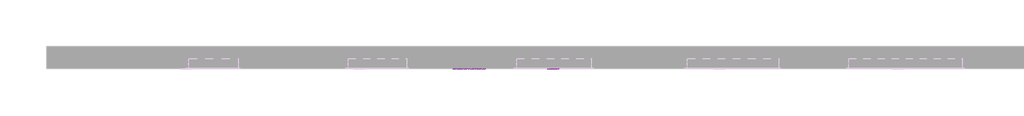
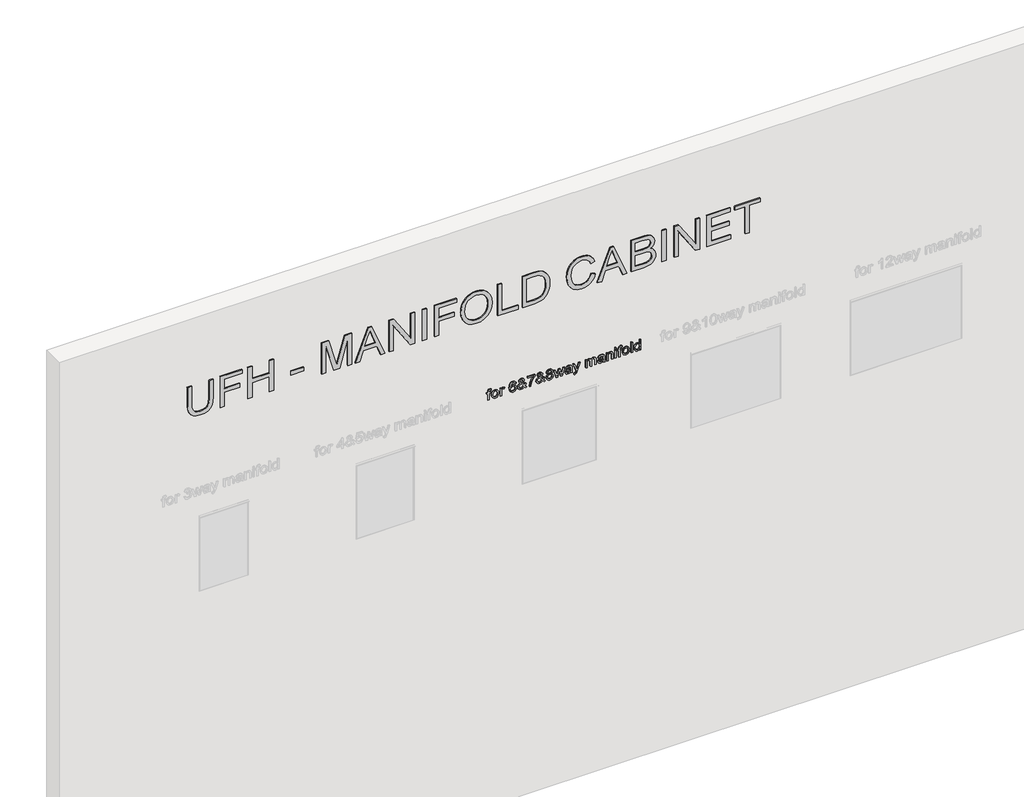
# One storey, part 8 of 26: 2 proxies.
"""IFC4 building model written with IfcOpenShell, lengths in millimetres."""

from ifc_helpers import new_model, si_unit, frame, origin, place, context, project, spatial, polyline, outline, extrude, element, save

model = new_model("IFC4")

# Units and contexts
model_context = context("Model", 3, world=origin())
ifc_project = project(units=[si_unit("LENGTHUNIT", "METRE", prefix="MILLI")], contexts=[model_context])

# Site, building, storey
site = spatial("IfcSite", under=ifc_project)
building = spatial("IfcBuilding", under=site)
storey = spatial("IfcBuildingStorey", under=building, Name="Superpipe UFH", Elevation=0.0)

# Proxies
placement = place(None, origin())
element("IfcBuildingElementProxy", 1, Name="300mm Arial", ObjectType="300mm Arial", at=placement, inside=storey, context=model_context, shape_type="SweptSolid", body=[
    extrude(outline(polyline([(5053.3493459, 1098.9177551), (4880.8126902, 1098.9177551), (4833.6502184, 1094.1536832), (4816.9115876, 1088.1985934), (4804.7346936, 1079.8614677), (4796.0756711, 1068.7284389), (4789.8906551, 1054.3856396), (4784.9426422, 1016.0707298), (4787.4442398, 991.9008827), (4794.9490325, 971.7777375), (4807.0615472, 956.3450878), (4823.3863107, 946.2467271), (4846.9583496, 940.6733149), (4880.8126902, 938.8155108), (5053.3493459, 938.8155108), (5053.3493459, 901.1443945), (4879.488315, 901.1443945), (4836.712836, 904.004677), (4804.0357178, 912.5855245), (4779.6727327, 927.8526273), (4761.8396529, 950.7716756), (4750.9135577, 981.3518665), (4747.2715259, 1019.6023969), (4751.4561836, 1058.708253), (4764.0101567, 1089.499976), (4783.231991, 1112.0327482), (4807.4202321, 1126.3617519), (4838.7729752, 1134.0320915), (4879.488315, 1136.5888714), (5053.3493459, 1136.5888714), (5053.3493459, 1098.9177551)])), frame((0.0, -15228.3023992, 0.0), z_axis=(0.0, 1.0, 0.0), x_axis=(0.0, 0.0, 1.0)), (0.0, 0.0, 1.0), 10.0),
    extrude(outline(polyline([(4751.9804155, 1202.5133249), (4751.9804155, 1240.1844412), (4888.5382121, 1240.1844412), (4888.5382121, 1381.4511274), (4926.2093284, 1381.4511274), (4926.2093284, 1240.1844412), (5015.6782296, 1240.1844412), (5015.6782296, 1404.9955751), (5053.3493459, 1404.9955751), (5053.3493459, 1202.5133249), (4751.9804155, 1202.5133249)])), frame((0.0, -15228.3023992, 0.0), z_axis=(0.0, 1.0, 0.0), x_axis=(0.0, 0.0, 1.0)), (0.0, 0.0, 1.0), 10.0),
    extrude(outline(polyline([(4751.9804155, 1456.79336), (4751.9804155, 1494.4644763), (4893.2471016, 1494.4644763), (4893.2471016, 1654.5667206), (4751.9804155, 1654.5667206), (4751.9804155, 1692.2378369), (5053.3493459, 1692.2378369), (5053.3493459, 1654.5667206), (4930.9182179, 1654.5667206), (4930.9182179, 1494.4644763), (5053.3493459, 1494.4644763), (5053.3493459, 1456.79336), (4751.9804155, 1456.79336)])), frame((0.0, -15228.3023992, 0.0), z_axis=(0.0, 1.0, 0.0), x_axis=(0.0, 0.0, 1.0)), (0.0, 0.0, 1.0), 10.0),
    extrude(outline(polyline([(1970.0623197, -15228.3023992), (1852.3400812, -15228.3023992), (1852.3400812, -15218.3023992), (1970.0623197, -15218.3023992), (1970.0623197, -15228.3023992)])), frame((0.0, 0.0, 4841.4493167), z_axis=(0.0, 0.0, 1.0), x_axis=(1.0, 0.0, 0.0)), (0.0, 0.0, 1.0), 37.6711163),
    extrude(outline(polyline([(4751.9804155, 2134.8734535), (4751.9804155, 2172.5445698), (5015.6782296, 2172.5445698), (4751.9804155, 2248.2546844), (4751.9804155, 2299.3167053), (5015.6782296, 2375.0268199), (4751.9804155, 2375.0268199), (4751.9804155, 2412.6979363), (5053.3493459, 2412.6979363), (5053.3493459, 2347.8771287), (4844.6131019, 2287.2501759), (4796.5677133, 2273.7856949), (4840.9342819, 2261.3512834), (5053.3493459, 2199.694261), (5053.3493459, 2134.8734535), (4751.9804155, 2134.8734535)])), frame((0.0, -15228.3023992, 0.0), z_axis=(0.0, 1.0, 0.0), x_axis=(0.0, 0.0, 1.0)), (0.0, 0.0, 1.0), 10.0),
    extrude(outline(polyline([(4751.9804155, 2443.5264475), (4751.9804155, 2483.3312793), (4846.1582062, 2517.7650341), (4846.1582062, 2641.8884193), (4751.9804155, 2676.3957504), (4751.9804155, 2716.2005823), (5053.3493459, 2595.9031699), (5053.3493459, 2563.8238599), (4751.9804155, 2443.5264475)]), holes=[polyline([(4883.8293225, 2531.5973971), (4964.3954795, 2561.1015331), (5015.6782296, 2579.8635149), (4957.9207564, 2600.9799414), (4883.8293225, 2628.1296326), (4883.8293225, 2531.5973971)])]), frame((0.0, -15228.3023992, 0.0), z_axis=(0.0, 1.0, 0.0), x_axis=(0.0, 0.0, 1.0)), (0.0, 0.0, 1.0), 10.0),
    extrude(outline(polyline([(4751.9804155, 2756.4468725), (4751.9804155, 2794.1179889), (4990.8094067, 2794.1179889), (4751.9804155, 2951.5714828), (4751.9804155, 2991.8913495), (5053.3493459, 2991.8913495), (5053.3493459, 2954.2202332), (4814.5939311, 2954.2202332), (5053.3493459, 2796.7667392), (5053.3493459, 2756.4468725), (4751.9804155, 2756.4468725)])), frame((0.0, -15228.3023992, 0.0), z_axis=(0.0, 1.0, 0.0), x_axis=(0.0, 0.0, 1.0)), (0.0, 0.0, 1.0), 10.0),
    extrude(outline(polyline([(3100.1958088, -15228.3023992), (3062.5246925, -15228.3023992), (3062.5246925, -15218.3023992), (3100.1958088, -15218.3023992), (3100.1958088, -15228.3023992)])), frame((0.0, 0.0, 4751.9804155), z_axis=(0.0, 0.0, 1.0), x_axis=(1.0, 0.0, 0.0)), (0.0, 0.0, 1.0), 301.3689304),
    extrude(outline(polyline([(4751.9804155, 3175.5380415), (4751.9804155, 3213.2091578), (4888.5382121, 3213.2091578), (4888.5382121, 3354.4758439), (4926.2093284, 3354.4758439), (4926.2093284, 3213.2091578), (5015.6782296, 3213.2091578), (5015.6782296, 3378.0202916), (5053.3493459, 3378.0202916), (5053.3493459, 3175.5380415), (4751.9804155, 3175.5380415)])), frame((0.0, -15228.3023992, 0.0), z_axis=(0.0, 1.0, 0.0), x_axis=(0.0, 0.0, 1.0)), (0.0, 0.0, 1.0), 10.0),
    extrude(outline(polyline([(4898.6917551, 3415.6914079), (4860.1469191, 3419.9956272), (4823.6806163, 3432.9082853), (4791.9875824, 3454.1718646), (4767.7625531, 3483.5288478), (4752.3942827, 3519.1766131), (4747.2715259, 3559.3125388), (4751.9068391, 3597.1216109), (4765.8127785, 3632.2635385), (4788.7318268, 3662.227527), (4820.4064666, 3684.5027818), (4858.8685292, 3698.3259478), (4902.1498459, 3702.9336697), (4944.8609455, 3698.555874), (4982.7895792, 3685.4224868), (5014.4090367, 3663.9381783), (5038.1926077, 3634.5076186), (5053.0918285, 3599.0621884), (5058.0582355, 3559.533268), (5055.4140836, 3529.2427842), (5047.4816281, 3501.8677653), (5034.2608689, 3477.4082111), (5015.751806, 3455.8641218), (4992.5706418, 3438.2885595), (4965.3335786, 3425.7345864), (4934.0406164, 3418.2022025), (4898.6917551, 3415.6914079)]), holes=[polyline([(4898.3238732, 3453.3625242), (4928.860378, 3455.3260944), (4954.6925919, 3461.2168048), (4975.8205147, 3471.0346556), (4992.2441465, 3484.7796466), (5004.556697, 3501.2469644), (5013.351376, 3519.2317954), (5018.6281834, 3538.7341397), (5020.3871192, 3559.7539972), (5016.7358904, 3588.9178424), (5005.7822039, 3615.0466611), (4988.1882475, 3636.7057136), (4964.6162087, 3652.46026), (4935.7926544, 3662.0619801), (4902.4441515, 3665.2625534), (4875.9060641, 3663.393253), (4852.5777471, 3657.7853519), (4832.4592004, 3648.4388499), (4815.5504242, 3635.3537472), (4802.1595196, 3619.3715738), (4792.5945877, 3601.3338597), (4786.8556286, 3581.240605), (4784.9426422, 3559.0918096), (4786.8372345, 3537.3154948), (4792.5210113, 3517.4567648), (4801.9939727, 3499.5156198), (4815.2561186, 3483.4920596), (4831.815407, 3470.3103879), (4851.1797955, 3460.8949081), (4873.3492842, 3455.2456202), (4898.3238732, 3453.3625242)])]), frame((0.0, -15228.3023992, 0.0), z_axis=(0.0, 1.0, 0.0), x_axis=(0.0, 0.0, 1.0)), (0.0, 0.0, 1.0), 10.0),
    extrude(outline(polyline([(4751.9804155, 3754.7314547), (4751.9804155, 3943.0870362), (4789.6515318, 3943.0870362), (4789.6515318, 3792.402571), (5053.3493459, 3792.402571), (5053.3493459, 3754.7314547), (4751.9804155, 3754.7314547)])), frame((0.0, -15228.3023992, 0.0), z_axis=(0.0, 1.0, 0.0), x_axis=(0.0, 0.0, 1.0)), (0.0, 0.0, 1.0), 10.0),
    extrude(outline(polyline([(4751.9804155, 3985.467042), (4751.9804155, 4094.433689), (4757.1307634, 4142.8837478), (4763.4859249, 4162.4274788), (4772.2507134, 4178.8993951), (4784.0689225, 4193.2467929), (4799.5843456, 4206.4169683), (4819.2384412, 4217.8580984), (4843.4726677, 4227.0183601), (4871.937537, 4233.0332307), (4904.2835615, 4235.0381876), (4942.359348, 4232.0767375), (4975.9469741, 4223.1923873), (5004.494617, 4208.3483488), (5027.4504535, 4187.5078338), (5040.639023, 4167.2375359), (5049.0083384, 4143.2148416), (5053.3493459, 4089.4304939), (5053.3493459, 3985.467042), (4751.9804155, 3985.467042)]), holes=[polyline([(4789.6515318, 4023.1381583), (5015.6782296, 4023.1381583), (5015.6782296, 4088.7683063), (5014.1699134, 4120.5165225), (5009.6449649, 4142.184772), (4997.0634007, 4163.4759425), (4976.2412797, 4181.2906281), (4945.9278033, 4193.3479605), (4904.8721727, 4197.3670713), (4873.8873116, 4195.3161291), (4847.8872516, 4189.1633028), (4826.7800221, 4179.3316564), (4810.4736527, 4166.2442545), (4801.6628789, 4154.0673604), (4795.0961853, 4138.2852228), (4791.0126952, 4117.3711314), (4789.6515318, 4089.7983759), (4789.6515318, 4023.1381583)])]), frame((0.0, -15228.3023992, 0.0), z_axis=(0.0, 1.0, 0.0), x_axis=(0.0, 0.0, 1.0)), (0.0, 0.0, 1.0), 10.0),
    extrude(outline(polyline([(4859.1076525, 4616.4582402), (4826.8444015, 4604.2721491), (4803.6310476, 4584.4892948), (4789.6147436, 4558.2868997), (4784.9426422, 4526.8421861), (4788.3731418, 4499.8672388), (4798.6646407, 4474.8604602), (4815.8907151, 4454.0015511), (4840.1249415, 4439.4702123), (4870.2176887, 4430.944547), (4905.0193255, 4428.1026586), (4933.4382096, 4430.5030887), (4961.0109651, 4437.7043787), (4985.4015414, 4450.8285689), (5004.2738878, 4470.9976993), (5016.3588113, 4497.5771734), (5020.3871192, 4529.9323949), (5016.7542845, 4558.0017911), (5005.8557803, 4580.847263), (4987.0110251, 4598.6895398), (4959.5394372, 4611.7493506), (4968.5157578, 4649.4204669), (5006.3340269, 4632.7830037), (5021.656312, 4620.9808894), (5034.5873642, 4606.8565201), (5044.8558704, 4590.6766101), (5052.1905176, 4572.7078739), (5058.0582355, 4531.4039229), (5053.5240899, 4493.5488656), (5039.9216531, 4459.0047462), (5017.5820189, 4429.8776893), (4986.8362812, 4408.2738191), (4948.8892534, 4394.8921115), (4904.9457491, 4390.4315423), (4863.2831131, 4394.3770767), (4824.3795921, 4406.2136799), (4791.2886067, 4425.6010611), (4767.0635773, 4452.1989293), (4752.2195388, 4486.8993985), (4747.2715259, 4530.5945825), (4748.9063015, 4553.0169901), (4753.8106284, 4573.6367759), (4761.9845065, 4592.45394), (4773.4279358, 4609.4684823), (4787.9845665, 4624.3447104), (4805.4980487, 4636.7469322), (4825.9683825, 4646.6751475), (4849.3955678, 4654.1293565), (4859.1076525, 4616.4582402)])), frame((0.0, -15228.3023992, 0.0), z_axis=(0.0, 1.0, 0.0), x_axis=(0.0, 0.0, 1.0)), (0.0, 0.0, 1.0), 10.0),
    extrude(outline(polyline([(4751.9804155, 4670.8311991), (4751.9804155, 4710.6360309), (4846.1582062, 4745.0697857), (4846.1582062, 4869.1931708), (4751.9804155, 4903.700502), (4751.9804155, 4943.5053339), (5053.3493459, 4823.2079215), (5053.3493459, 4791.1286115), (4751.9804155, 4670.8311991)]), holes=[polyline([(4883.8293225, 4758.9021487), (4964.3954795, 4788.4062847), (5015.6782296, 4807.1682665), (4957.9207564, 4828.284693), (4883.8293225, 4855.4343842), (4883.8293225, 4758.9021487)])]), frame((0.0, -15228.3023992, 0.0), z_axis=(0.0, 1.0, 0.0), x_axis=(0.0, 0.0, 1.0)), (0.0, 0.0, 1.0), 10.0),
    extrude(outline(polyline([(4751.9804155, 4983.7516241), (4751.9804155, 5097.8686191), (4757.1675516, 5146.171525), (4763.5870924, 5164.2069398), (4772.4714426, 5178.9498108), (4784.7403071, 5190.9887491), (4801.313391, 5200.9123659), (4820.8019397, 5207.561833), (4841.8171987, 5209.778322), (4867.0355095, 5206.5317634), (4888.6853649, 5196.7920876), (4905.6447249, 5181.019147), (4916.7915493, 5159.6727942), (4928.536182, 5177.5426622), (4943.462994, 5190.243788), (4960.5235215, 5197.8313542), (4978.6693009, 5200.3605429), (4998.3877758, 5197.3531076), (5017.223334, 5188.3308017), (5033.2353978, 5174.001798), (5044.4833898, 5155.0742693), (5051.1328569, 5130.3801904), (5053.3493459, 5098.7515358), (5053.3493459, 4983.7516241), (4751.9804155, 4983.7516241)]), holes=[polyline([(4930.9182179, 5021.4227405), (5015.6782296, 5021.4227405), (5015.6782296, 5084.9927492), (5011.7418923, 5133.4060198), (5006.1408889, 5145.8956135), (4997.2105535, 5155.1110575), (4985.7694234, 5160.7948343), (4972.6360362, 5162.6894266), (4959.1071758, 5160.6568786), (4948.0983071, 5154.5592345), (4939.7381888, 5144.4516767), (4934.1555795, 5130.3893874), (4930.9182179, 5090.2166736), (4930.9182179, 5021.4227405)]), polyline([(4789.6515318, 5021.4227405), (4893.2471016, 5021.4227405), (4893.2471016, 5094.9991395), (4891.9871058, 5121.826934), (4888.2071183, 5141.5362119), (4881.3185279, 5155.4513483), (4870.7327235, 5164.8967186), (4857.1946661, 5170.3045839), (4841.4493167, 5172.1072057), (4827.8928652, 5170.5712983), (4816.065459, 5165.9635764), (4799.3268283, 5150.2918034), (4791.1230598, 5126.6369911), (4789.6515318, 5098.6779594), (4789.6515318, 5021.4227405)])]), frame((0.0, -15228.3023992, 0.0), z_axis=(0.0, 1.0, 0.0), x_axis=(0.0, 0.0, 1.0)), (0.0, 0.0, 1.0), 10.0),
    extrude(outline(polyline([(5303.9561127, -15228.3023992), (5266.2849964, -15228.3023992), (5266.2849964, -15218.3023992), (5303.9561127, -15218.3023992), (5303.9561127, -15228.3023992)])), frame((0.0, 0.0, 4751.9804155), z_axis=(0.0, 0.0, 1.0), x_axis=(1.0, 0.0, 0.0)), (0.0, 0.0, 1.0), 301.3689304),
    extrude(outline(polyline([(4751.9804155, 5379.2983454), (4751.9804155, 5416.9694617), (4990.8094067, 5416.9694617), (4751.9804155, 5574.4229556), (4751.9804155, 5614.7428223), (5053.3493459, 5614.7428223), (5053.3493459, 5577.071706), (4814.5939311, 5577.071706), (5053.3493459, 5419.618212), (5053.3493459, 5379.2983454), (4751.9804155, 5379.2983454)])), frame((0.0, -15228.3023992, 0.0), z_axis=(0.0, 1.0, 0.0), x_axis=(0.0, 0.0, 1.0)), (0.0, 0.0, 1.0), 10.0),
    extrude(outline(polyline([(4751.9804155, 5680.6672758), (4751.9804155, 5901.9850841), (4789.6515318, 5901.9850841), (4789.6515318, 5718.3383921), (4888.5382121, 5718.3383921), (4888.5382121, 5887.8584155), (4926.2093284, 5887.8584155), (4926.2093284, 5718.3383921), (5015.6782296, 5718.3383921), (5015.6782296, 5897.2761946), (5053.3493459, 5897.2761946), (5053.3493459, 5680.6672758), (4751.9804155, 5680.6672758)])), frame((0.0, -15228.3023992, 0.0), z_axis=(0.0, 1.0, 0.0), x_axis=(0.0, 0.0, 1.0)), (0.0, 0.0, 1.0), 10.0),
    extrude(outline(polyline([(4751.9804155, 6033.8339912), (4751.9804155, 6071.5051075), (5015.6782296, 6071.5051075), (5015.6782296, 6170.3917878), (5053.3493459, 6170.3917878), (5053.3493459, 5934.9473109), (5015.6782296, 5934.9473109), (5015.6782296, 6033.8339912), (4751.9804155, 6033.8339912)])), frame((0.0, -15228.3023992, 0.0), z_axis=(0.0, 1.0, 0.0), x_axis=(0.0, 0.0, 1.0)), (0.0, 0.0, 1.0), 10.0),
])
element("IfcBuildingElementProxy", 2, Name="600mm Arial 2", ObjectType="600mm Arial 2", at=placement, inside=storey, context=model_context, shape_type="SweptSolid", body=[
    extrude(outline(polyline([(3962.0075613, 3665.128365), (3962.0075613, 3677.6854038), (4023.2231253, 3677.6854038), (4023.2231253, 3691.8120724), (4035.7801641, 3691.8120724), (4035.7801641, 3677.6854038), (4041.6172251, 3677.6854038), (4049.3917979, 3680.0030603), (4051.4764625, 3687.9125232), (4050.8878514, 3695.1475358), (4062.6600752, 3696.9869458), (4064.0335013, 3685.533553), (4061.1640218, 3672.8784124), (4053.6837545, 3666.4527402), (4043.2113804, 3665.128365), (4035.7801641, 3665.128365), (4035.7801641, 3654.1409561), (4023.2231253, 3654.1409561), (4023.2231253, 3665.128365), (3962.0075613, 3665.128365)])), frame((0.0, -15228.3023992, 0.0), z_axis=(0.0, 1.0, 0.0), x_axis=(0.0, 0.0, 1.0)), (0.0, 0.0, 1.0), 10.0),
    extrude(outline(polyline([(3998.8938627, 3699.6602216), (3982.4372748, 3701.9380243), (3970.3462199, 3708.7714324), (3962.9150036, 3719.2959231), (3960.4379315, 3732.6469739), (3964.9383546, 3749.6553848), (3977.5812325, 3761.5134477), (3999.9239323, 3765.5846752), (4015.5619828, 3763.282347), (4027.4047173, 3756.3753625), (4034.8635248, 3745.8386091), (4037.3497939, 3732.6469739), (4035.3080489, 3720.5927071), (4029.1828136, 3710.5250032), (4016.6809572, 3702.376417), (3998.8938627, 3699.6602216)]), holes=[polyline([(3998.9183882, 3712.2172604), (4010.2767448, 3713.6703943), (4018.3548203, 3718.0297959), (4023.1832714, 3724.5903582), (4024.7927552, 3732.6469739), (4023.1771401, 3740.6208161), (4018.3302948, 3747.1783127), (4010.3441898, 3751.5653055), (3999.3107956, 3753.0276364), (3987.6979873, 3751.5745025), (3979.4942188, 3747.2151009), (3974.6197824, 3740.6668013), (3972.9949702, 3732.6469739), (3974.6105853, 3724.5903582), (3979.4574306, 3718.0297959), (3987.5539002, 3713.6703943), (3998.9183882, 3712.2172604)])]), frame((0.0, -15228.3023992, 0.0), z_axis=(0.0, 1.0, 0.0), x_axis=(0.0, 0.0, 1.0)), (0.0, 0.0, 1.0), 10.0),
    extrude(outline(polyline([(3962.0075613, 3779.7113438), (3962.0075613, 3792.2683825), (4000.7823236, 3792.2683825), (4015.4485525, 3794.3039962), (4022.3156831, 3798.8289448), (4024.7927552, 3805.9290673), (4022.2175812, 3814.7582352), (4033.4747703, 3818.9520899), (4037.3497939, 3806.3460002), (4034.9217728, 3798.497851), (4024.8663316, 3790.6987527), (4035.7801641, 3790.6987527), (4035.7801641, 3779.7113438), (3962.0075613, 3779.7113438)])), frame((0.0, -15228.3023992, 0.0), z_axis=(0.0, 1.0, 0.0), x_axis=(0.0, 0.0, 1.0)), (0.0, 0.0, 1.0), 10.0),
    extrude(outline(polyline([(4035.7801641, 3927.2565493), (4046.9331199, 3924.1663405), (4055.3760117, 3917.985923), (4060.6919065, 3909.1628865), (4062.4638715, 3898.1448207), (4059.6005233, 3883.5705624), (4051.0104787, 3872.3195047), (4033.9100973, 3864.078948), (4008.900253, 3861.3320958), (3986.655655, 3863.8061022), (3971.719646, 3871.2281214), (3963.2583601, 3882.5742153), (3960.4379315, 3896.8204456), (3964.6930999, 3913.2770335), (3976.9558331, 3924.6813753), (3994.283075, 3928.8261791), (4007.1528135, 3926.6250185), (4017.4105898, 3920.0215367), (4024.1244362, 3910.2849266), (4026.362385, 3898.684381), (4023.0882353, 3884.9623826), (4013.0695823, 3873.8891345), (4035.4490703, 3877.4575899), (4046.8656749, 3886.0292404), (4049.9068327, 3897.3600058), (4044.6829084, 3909.9415701), (4034.2105342, 3914.6995105), (4035.7801641, 3927.2565493)]), holes=[polyline([(3994.4792788, 3873.8891345), (4002.3059682, 3875.4495673), (4008.4710573, 3880.1308657), (4013.8053462, 3895.3243921), (4012.471774, 3904.0891807), (4008.4710573, 3910.7141223), (4002.152684, 3914.8803858), (3993.8661421, 3916.2691404), (3985.233178, 3914.8619917), (3978.611302, 3910.6405459), (3974.3990532, 3904.1259689), (3972.9949702, 3895.8394269), (3975.7050343, 3884.5209242), (3983.6022344, 3876.7954023), (3994.4792788, 3873.8891345)])]), frame((0.0, -15228.3023992, 0.0), z_axis=(0.0, 1.0, 0.0), x_axis=(0.0, 0.0, 1.0)), (0.0, 0.0, 1.0), 10.0),
    extrude(outline(polyline([(3974.4174473, 4000.5631682), (3960.4379315, 4013.5861908), (3970.1009652, 4023.0039699), (3985.3067544, 4007.8472317), (4005.9817225, 4016.7254505), (4008.7040492, 4004.1684118), (3994.7981098, 3998.7482837), (4017.4351153, 3980.5749131), (4028.7904062, 3994.7383699), (4042.2548872, 3999.4595222), (4050.5874144, 3997.8653669), (4057.6323546, 3993.082901), (4062.4332146, 3985.7927061), (4064.0335013, 3976.675364), (4062.3596382, 3967.092038), (4057.338049, 3959.2868083), (4050.0478541, 3954.0996722), (4041.5681741, 3952.3706268), (4032.1503951, 3954.5656561), (4019.4462035, 3963.3335103), (4006.3496045, 3945.7119627), (3989.6477619, 3939.8135881), (3979.7210794, 3941.6468667), (3970.7876783, 3947.1467025), (3963.0253682, 3957.8152804), (3960.4379315, 3971.6721689), (3963.9328104, 3987.24584), (3974.4174473, 4000.5631682)]), holes=[polyline([(4025.3568409, 3974.2228174), (4031.3410547, 3969.2686731), (4036.4546144, 3966.0067861), (4041.0531394, 3964.9276656), (4048.4475675, 3968.1037135), (4051.4764625, 3976.0377019), (4048.423042, 3983.800012), (4040.5381046, 3986.9024835), (4033.1436765, 3984.5480387), (4025.3568409, 3974.2228174)]), polyline([(3983.4673444, 3992.1509332), (3975.9135007, 3982.6227896), (3972.9949702, 3971.0835577), (3974.5584687, 3963.1495693), (3979.2489642, 3957.2511946), (3991.3154936, 3952.3706268), (4000.9294764, 3955.9390822), (4011.4509015, 3969.734657), (3983.4673444, 3992.1509332)])]), frame((0.0, -15228.3023992, 0.0), z_axis=(0.0, 1.0, 0.0), x_axis=(0.0, 0.0, 1.0)), (0.0, 0.0, 1.0), 10.0),
    extrude(outline(polyline([(4048.3372029, 4032.421749), (4048.3372029, 4085.7891638), (4022.3524713, 4066.8064528), (3990.334475, 4053.1089799), (3962.0075613, 4048.1180474), (3962.0075613, 4060.6750862), (3989.3044054, 4065.3349248), (4023.7258974, 4079.6455344), (4050.7406986, 4098.3462025), (4060.8942416, 4098.3462025), (4060.8942416, 4032.421749), (4048.3372029, 4032.421749)])), frame((0.0, -15228.3023992, 0.0), z_axis=(0.0, 1.0, 0.0), x_axis=(0.0, 0.0, 1.0)), (0.0, 0.0, 1.0), 10.0),
    extrude(outline(polyline([(3974.4174473, 4170.0831916), (3960.4379315, 4183.1062142), (3970.1009652, 4192.5239933), (3985.3067544, 4177.3672551), (4005.9817225, 4186.2454739), (4008.7040492, 4173.6884351), (3994.7981098, 4168.2683071), (4017.4351153, 4150.0949365), (4028.7904062, 4164.2583933), (4042.2548872, 4168.9795456), (4050.5874144, 4167.3853903), (4057.6323546, 4162.6029243), (4062.4332146, 4155.3127295), (4064.0335013, 4146.1953874), (4062.3596382, 4136.6120614), (4057.338049, 4128.8068317), (4050.0478541, 4123.6196956), (4041.5681741, 4121.8906502), (4032.1503951, 4124.0856795), (4019.4462035, 4132.8535337), (4006.3496045, 4115.2319861), (3989.6477619, 4109.3336114), (3979.7210794, 4111.1668901), (3970.7876783, 4116.6667259), (3963.0253682, 4127.3353037), (3960.4379315, 4141.1921922), (3963.9328104, 4156.7658634), (3974.4174473, 4170.0831916)]), holes=[polyline([(4025.3568409, 4143.7428407), (4031.3410547, 4138.7886965), (4036.4546144, 4135.5268095), (4041.0531394, 4134.447689), (4048.4475675, 4137.6237369), (4051.4764625, 4145.5577252), (4048.423042, 4153.3200353), (4040.5381046, 4156.4225068), (4033.1436765, 4154.0680621), (4025.3568409, 4143.7428407)]), polyline([(3983.4673444, 4161.6709566), (3975.9135007, 4152.142813), (3972.9949702, 4140.603581), (3974.5584687, 4132.6695927), (3979.2489642, 4126.771218), (3991.3154936, 4121.8906502), (4000.9294764, 4125.4591056), (4011.4509015, 4139.2546804), (3983.4673444, 4161.6709566)])]), frame((0.0, -15228.3023992, 0.0), z_axis=(0.0, 1.0, 0.0), x_axis=(0.0, 0.0, 1.0)), (0.0, 0.0, 1.0), 10.0),
    extrude(outline(polyline([(4017.3370134, 4220.2377703), (4008.2135399, 4206.6997128), (3991.5852737, 4201.9417724), (3979.3685258, 4204.210378), (3969.3529385, 4211.0161949), (3962.6666832, 4221.5253572), (3960.4379315, 4234.9039991), (3962.6574862, 4248.282641), (3969.3161503, 4258.7918034), (3979.2367014, 4265.5976203), (3991.2419172, 4267.8662259), (4007.4900387, 4263.2922264), (4017.3370134, 4249.93811), (4025.0993235, 4261.060409), (4036.932861, 4264.7269662), (4046.7920985, 4262.666827), (4055.0326552, 4256.4864095), (4060.6060674, 4246.927609), (4062.4638715, 4234.7323209), (4060.648987, 4222.6106091), (4055.2043334, 4213.174436), (4047.0925354, 4207.104383), (4037.2762175, 4205.0810321), (4025.1361117, 4208.7966402), (4017.3370134, 4220.2377703)]), holes=[polyline([(4036.9083355, 4217.6380708), (4046.08086, 4222.1630194), (4049.9068327, 4234.9039991), (4045.9950208, 4247.6081907), (4036.3442498, 4252.1699274), (4027.0245726, 4247.7553435), (4023.2231253, 4235.0511519), (4027.0490981, 4222.089443), (4036.9083355, 4217.6380708)]), polyline([(3992.0267321, 4214.4988111), (4005.3440604, 4219.8085746), (4009.33558, 4226.1576047), (4010.6660866, 4234.5851681), (4009.3171859, 4243.230395), (4005.270484, 4249.7909572), (3991.6343247, 4255.3091871), (3978.2556828, 4249.9626355), (3974.3101484, 4243.549226), (3972.9949702, 4235.002101), (3975.4965678, 4224.0146921), (3982.5721649, 4216.5957385), (3992.0267321, 4214.4988111)])]), frame((0.0, -15228.3023992, 0.0), z_axis=(0.0, 1.0, 0.0), x_axis=(0.0, 0.0, 1.0)), (0.0, 0.0, 1.0), 10.0),
    extrude(outline(polyline([(3962.0075613, 4294.2311022), (3962.0075613, 4309.5840442), (4018.7594904, 4322.0184556), (4005.270484, 4324.8143588), (3962.0075613, 4334.452867), (3962.0075613, 4349.6341307), (4035.7801641, 4372.2466107), (4035.7801641, 4359.1500116), (3993.0322762, 4346.3967691), (3978.8810822, 4342.4236436), (3992.2965123, 4339.6522659), (4035.7801641, 4329.5722992), (4035.7801641, 4314.6117648), (3992.1738849, 4304.4827472), (3977.3605033, 4301.3680129), (3992.7379707, 4297.5665656), (4035.7801641, 4284.8378486), (4035.7801641, 4271.7903005), (3962.0075613, 4294.2311022)])), frame((0.0, -15228.3023992, 0.0), z_axis=(0.0, 1.0, 0.0), x_axis=(0.0, 0.0, 1.0)), (0.0, 0.0, 1.0), 10.0),
    extrude(outline(polyline([(3971.4253404, 4427.9684702), (3962.0075613, 4431.1077299), (3962.0075613, 4443.6647687), (3972.5657746, 4441.1631711), (3994.3811769, 4440.525509), (4010.003899, 4440.525509), (4020.9913079, 4439.9123723), (4029.5139074, 4436.0618741), (4035.1179765, 4427.4656981), (4037.3497939, 4412.2476463), (4034.8236709, 4395.6806938), (4027.6377093, 4384.7423358), (4015.3749761, 4379.309945), (4013.8053462, 4391.8669837), (4022.3769967, 4397.9247739), (4024.7927552, 4410.6289655), (4021.1629861, 4424.5103794), (4011.8923599, 4427.9684702), (4009.0964567, 4427.8948938), (4004.7799746, 4406.1162797), (4002.8915137, 4395.2514981), (3998.7712354, 4386.4591184), (3991.5607483, 4380.1438108), (3981.6279344, 4377.7403151), (3973.1850426, 4379.3314048), (3966.3976198, 4384.1046736), (3961.9278536, 4391.845524), (3960.4379315, 4402.3393579), (3962.9150036, 4415.7915762), (3971.4253404, 4427.9684702)]), holes=[polyline([(3996.5394179, 4427.9684702), (3992.9832253, 4427.8948938), (3983.2711406, 4425.908331), (3975.9993399, 4417.7168253), (3972.9949702, 4405.0126337), (3975.717297, 4394.0374875), (3982.5108512, 4390.2973539), (3987.3423681, 4392.0141365), (3990.653306, 4396.9069671), (3992.6889197, 4407.710435), (3996.5394179, 4427.9684702)])]), frame((0.0, -15228.3023992, 0.0), z_axis=(0.0, 1.0, 0.0), x_axis=(0.0, 0.0, 1.0)), (0.0, 0.0, 1.0), 10.0),
    extrude(outline(polyline([(3933.7542241, 4457.7914373), (3932.1845942, 4465.4679082), (3935.0050229, 4475.2535693), (3943.8587162, 4482.5376328), (3960.2417277, 4489.2085597), (4035.7801641, 4514.8867229), (4035.7801641, 4501.741073), (3992.9096489, 4487.1974714), (3978.4396238, 4482.2678527), (3994.8226353, 4477.338234), (4035.7801641, 4463.1870399), (4035.7801641, 4449.943288), (3962.2773415, 4476.6269954), (3959.2361836, 4475.6459768), (3949.9900828, 4472.2124115), (3946.1273219, 4468.558117), (3944.741633, 4462.5984287), (3945.845279, 4456.2218074), (3933.7542241, 4457.7914373)])), frame((0.0, -15228.3023992, 0.0), z_axis=(0.0, 1.0, 0.0), x_axis=(0.0, 0.0, 1.0)), (0.0, 0.0, 1.0), 10.0),
    extrude(outline(polyline([(3962.0075613, 4564.5262668), (3962.0075613, 4577.0833056), (3999.2126938, 4577.0833056), (4014.1977537, 4578.996292), (4022.0949539, 4585.1767095), (4024.7927552, 4594.4718612), (4020.7460532, 4604.0000049), (4008.5814219, 4606.9062727), (3962.0075613, 4606.9062727), (3962.0075613, 4619.4633114), (4003.6518032, 4619.4633114), (4013.2228664, 4620.6926504), (4019.7650346, 4624.3806674), (4024.7927552, 4636.7292397), (4022.8307179, 4643.9029386), (4017.6681072, 4648.1213188), (4007.1834703, 4649.2862785), (3962.0075613, 4649.2862785), (3962.0075613, 4661.8433173), (4012.5790729, 4661.8433173), (4023.5695475, 4660.4055118), (4031.279741, 4656.0920954), (4035.8322807, 4649.1115346), (4037.3497939, 4639.6722957), (4033.7016308, 4627.2991979), (4022.7571415, 4617.5012741), (4033.5115585, 4610.5850926), (4037.3497939, 4598.0035284), (4033.5851349, 4585.7162697), (4023.6400582, 4577.0833056), (4035.7801641, 4577.0833056), (4035.7801641, 4564.5262668), (3962.0075613, 4564.5262668)])), frame((0.0, -15228.3023992, 0.0), z_axis=(0.0, 1.0, 0.0), x_axis=(0.0, 0.0, 1.0)), (0.0, 0.0, 1.0), 10.0),
    extrude(outline(polyline([(3971.4253404, 4727.7677708), (3962.0075613, 4730.9070305), (3962.0075613, 4743.4640693), (3972.5657746, 4740.9624717), (3994.3811769, 4740.3248096), (4010.003899, 4740.3248096), (4020.9913079, 4739.7116729), (4029.5139074, 4735.8611747), (4035.1179765, 4727.2649987), (4037.3497939, 4712.0469469), (4034.8236709, 4695.4799944), (4027.6377093, 4684.5416364), (4015.3749761, 4679.1092456), (4013.8053462, 4691.6662843), (4022.3769967, 4697.7240745), (4024.7927552, 4710.4282661), (4021.1629861, 4724.3096801), (4011.8923599, 4727.7677708), (4009.0964567, 4727.6941944), (4004.7799746, 4705.9155803), (4002.8915137, 4695.0507987), (3998.7712354, 4686.258419), (3991.5607483, 4679.9431114), (3981.6279344, 4677.5396157), (3973.1850426, 4679.1307054), (3966.3976198, 4683.9039742), (3961.9278536, 4691.6448246), (3960.4379315, 4702.1386585), (3962.9150036, 4715.5908768), (3971.4253404, 4727.7677708)]), holes=[polyline([(3996.5394179, 4727.7677708), (3992.9832253, 4727.6941944), (3983.2711406, 4725.7076316), (3975.9993399, 4717.5161259), (3972.9949702, 4704.8119343), (3975.717297, 4693.8367881), (3982.5108512, 4690.0966545), (3987.3423681, 4691.8134371), (3990.653306, 4696.7062677), (3992.6889197, 4707.5097356), (3996.5394179, 4727.7677708)])]), frame((0.0, -15228.3023992, 0.0), z_axis=(0.0, 1.0, 0.0), x_axis=(0.0, 0.0, 1.0)), (0.0, 0.0, 1.0), 10.0),
    extrude(outline(polyline([(3962.0075613, 4757.5907379), (3962.0075613, 4770.1477766), (4001.1502056, 4770.1477766), (4012.7200944, 4771.5794507), (4019.8631364, 4775.874473), (4024.7927552, 4789.4983696), (4022.5977259, 4798.119071), (4016.7238767, 4803.2326307), (4005.6138405, 4804.6796333), (3962.0075613, 4804.6796333), (3962.0075613, 4817.236672), (4007.3060977, 4817.236672), (4019.4462035, 4816.5744844), (4028.6800416, 4812.8098254), (4034.958561, 4804.7164215), (4037.3497939, 4792.8583585), (4034.3822125, 4779.7494967), (4025.4794682, 4770.1477766), (4035.7801641, 4770.1477766), (4035.7801641, 4757.5907379), (3962.0075613, 4757.5907379)])), frame((0.0, -15228.3023992, 0.0), z_axis=(0.0, 1.0, 0.0), x_axis=(0.0, 0.0, 1.0)), (0.0, 0.0, 1.0), 10.0),
    extrude(outline(polyline([(4847.0596391, -15228.3023992), (4834.5026003, -15228.3023992), (4834.5026003, -15218.3023992), (4847.0596391, -15218.3023992), (4847.0596391, -15228.3023992)])), frame((0.0, 0.0, 4049.9068327), z_axis=(0.0, 0.0, 1.0), x_axis=(1.0, 0.0, 0.0)), (0.0, 0.0, 1.0), 12.5570388),
    extrude(outline(polyline([(4847.0596391, -15228.3023992), (4834.5026003, -15228.3023992), (4834.5026003, -15218.3023992), (4847.0596391, -15218.3023992), (4847.0596391, -15228.3023992)])), frame((0.0, 0.0, 3962.0075613), z_axis=(0.0, 0.0, 1.0), x_axis=(1.0, 0.0, 0.0)), (0.0, 0.0, 1.0), 73.7726028),
    extrude(outline(polyline([(3962.0075613, 4869.034457), (3962.0075613, 4881.5914957), (4023.2231253, 4881.5914957), (4023.2231253, 4895.7181643), (4035.7801641, 4895.7181643), (4035.7801641, 4881.5914957), (4041.6172251, 4881.5914957), (4049.3917979, 4883.9091523), (4051.4764625, 4891.8186152), (4050.8878514, 4899.0536278), (4062.6600752, 4900.8930377), (4064.0335013, 4889.439645), (4061.1640218, 4876.7845043), (4053.6837545, 4870.3588321), (4043.2113804, 4869.034457), (4035.7801641, 4869.034457), (4035.7801641, 4858.047048), (4023.2231253, 4858.047048), (4023.2231253, 4869.034457), (3962.0075613, 4869.034457)])), frame((0.0, -15228.3023992, 0.0), z_axis=(0.0, 1.0, 0.0), x_axis=(0.0, 0.0, 1.0)), (0.0, 0.0, 1.0), 10.0),
    extrude(outline(polyline([(3998.8938627, 4903.5663136), (3982.4372748, 4905.8441163), (3970.3462199, 4912.6775243), (3962.9150036, 4923.2020151), (3960.4379315, 4936.5530658), (3964.9383546, 4953.5614767), (3977.5812325, 4965.4195397), (3999.9239323, 4969.4907671), (4015.5619828, 4967.1884389), (4027.4047173, 4960.2814545), (4034.8635248, 4949.744701), (4037.3497939, 4936.5530658), (4035.3080489, 4924.4987991), (4029.1828136, 4914.4310952), (4016.6809572, 4906.282509), (3998.8938627, 4903.5663136)]), holes=[polyline([(3998.9183882, 4916.1233523), (4010.2767448, 4917.5764862), (4018.3548203, 4921.9358879), (4023.1832714, 4928.4964501), (4024.7927552, 4936.5530658), (4023.1771401, 4944.526908), (4018.3302948, 4951.0844046), (4010.3441898, 4955.4713974), (3999.3107956, 4956.9337283), (3987.6979873, 4955.4805945), (3979.4942188, 4951.1211928), (3974.6197824, 4944.5728933), (3972.9949702, 4936.5530658), (3974.6105853, 4928.4964501), (3979.4574306, 4921.9358879), (3987.5539002, 4917.5764862), (3998.9183882, 4916.1233523)])]), frame((0.0, -15228.3023992, 0.0), z_axis=(0.0, 1.0, 0.0), x_axis=(0.0, 0.0, 1.0)), (0.0, 0.0, 1.0), 10.0),
    extrude(outline(polyline([(4996.1744745, -15228.3023992), (4983.6174357, -15228.3023992), (4983.6174357, -15218.3023992), (4996.1744745, -15218.3023992), (4996.1744745, -15228.3023992)])), frame((0.0, 0.0, 3962.0075613), z_axis=(0.0, 0.0, 1.0), x_axis=(1.0, 0.0, 0.0)), (0.0, 0.0, 1.0), 100.4563101),
    extrude(outline(polyline([(3962.0075613, 5060.5292982), (3962.0075613, 5073.0863369), (4062.4638715, 5073.0863369), (4062.4638715, 5060.5292982), (4025.0380098, 5060.5292982), (4033.9284914, 5052.264216), (4037.3497939, 5040.6881959), (4032.567328, 5024.6608036), (4018.8085414, 5013.8941239), (3998.8202863, 5010.3011431), (3978.844294, 5014.2006922), (3965.2939738, 5025.1881012), (3960.4379315, 5040.7372468), (3963.791789, 5052.2212965), (3973.8533616, 5060.5292982), (3962.0075613, 5060.5292982)]), holes=[polyline([(3998.8693372, 5022.8581819), (4010.5097367, 5024.1825571), (4018.551024, 5028.1556826), (4023.2323224, 5034.1092396), (4024.7927552, 5041.374909), (4023.167943, 5048.827585), (4018.2935066, 5054.9988055), (4009.9487167, 5059.146675), (3997.9128441, 5060.5292982), (3986.9039753, 5059.1712005), (3979.1385996, 5055.0969074), (3974.5308776, 5049.0789711), (3972.9949702, 5041.8899438), (3974.604454, 5034.6978507), (3979.4329052, 5028.5235646), (3987.5109806, 5024.2745276), (3998.8693372, 5022.8581819)])]), frame((0.0, -15228.3023992, 0.0), z_axis=(0.0, 1.0, 0.0), x_axis=(0.0, 0.0, 1.0)), (0.0, 0.0, 1.0), 10.0),
])

save(model, "model.ifc")
